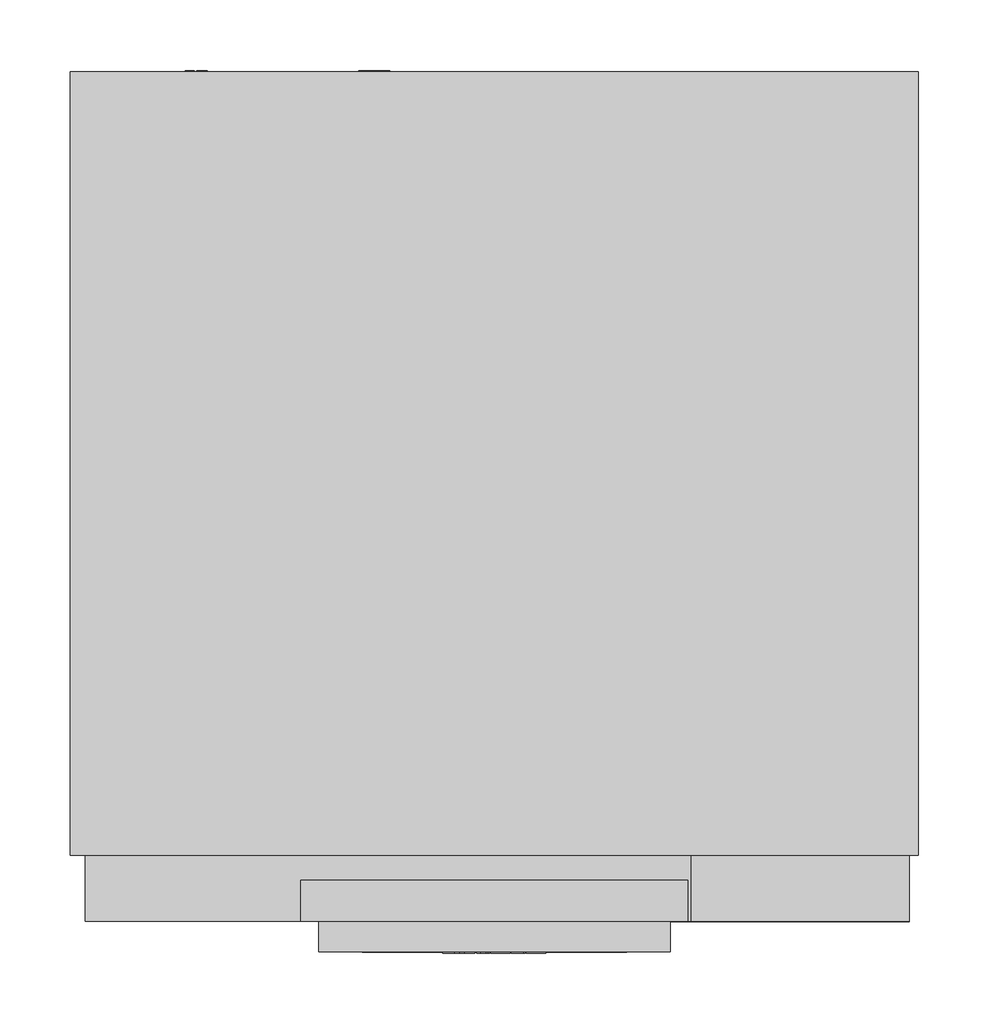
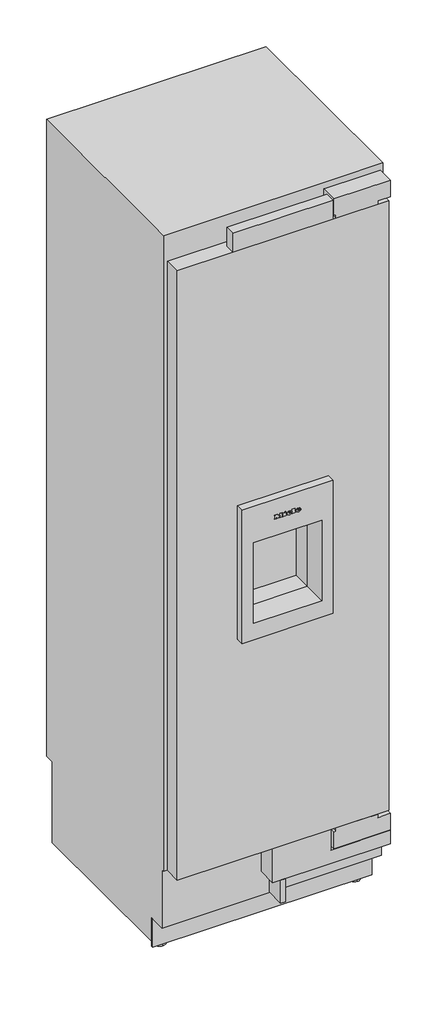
# Not in any storey: 1 proxy.
"""IFC4 building model written with IfcOpenShell, lengths in millimetres."""

from ifc_helpers import new_model, si_unit, origin, place, context, project, spatial, transform, mapped, element, save
from components import specialty_equipment_8d51bce9

model = new_model("IFC4")

# Units and contexts
model_context = context("Model", 3, world=origin())
ifc_project = project(units=[si_unit("LENGTHUNIT", "METRE", prefix="MILLI")], contexts=[model_context])

# Site, building
site = spatial("IfcSite", under=ifc_project)
building = spatial("IfcBuilding", under=site)

# Proxy
placement = place(None, origin())
specialty_equipment_shape = specialty_equipment_8d51bce9(model_context)
element("IfcBuildingElementProxy", 1, Name="11503540_USA_F2662Vi : 37266201_USA_11503540_F2662Vi", ObjectType="11503540_USA_F2662Vi : 37266201_USA_11503540_F2662Vi", at=placement, inside=building, context=model_context, shape_type="MappedRepresentation", body=[
    mapped(specialty_equipment_shape, transform((0.0, 0.0, 0.0), x_axis=(1.0, 0.0, 0.0), y_axis=(0.0, 1.0, 0.0), z_axis=(0.0, 0.0, 1.0))),
])

save(model, "model.ifc")
